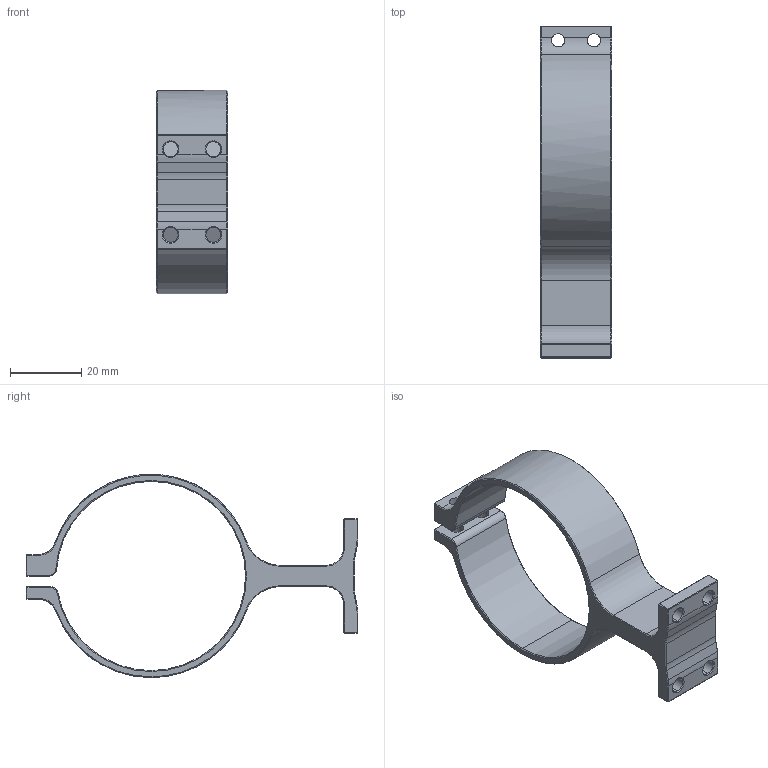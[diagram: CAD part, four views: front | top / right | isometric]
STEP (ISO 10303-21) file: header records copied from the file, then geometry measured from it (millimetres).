
FILE_DESCRIPTION (( 'STEP AP203' ), '1' );
FILE_NAME ('BJJ02070665-3923安装座-A.stp', '2023-10-26T09:50:29', ( '微软用户' ), ( '微软中国' ), 'SwSTEP 2.0', 'SolidWorks 2021', '' );
FILE_SCHEMA (( 'CONFIG_CONTROL_DESIGN' ));
Length unit declared in the file: millimetre
Products named in the file (1): BJJ02070665-3923假蚾釱-A
Bounding box: 20 x 93 x 57 mm (x, y, z)
Volume: 13634.9 mm3; surface area: 10893.4 mm2
Topology: 1 solids, 1 shells, 165 faces, 408 edges, 239 vertices
Faces by surface type: plane 69, cone 54, cylinder 38, bspline 4
Entity records: 6112 total; most frequent: CARTESIAN_POINT 2113, DIRECTION 827, ORIENTED_EDGE 816, EDGE_CURVE 408, AXIS2_PLACEMENT_3D 287, VECTOR 253, LINE 253, VERTEX_POINT 239
